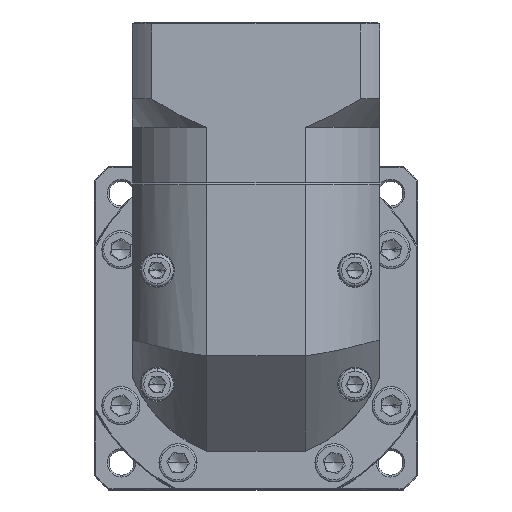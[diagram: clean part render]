
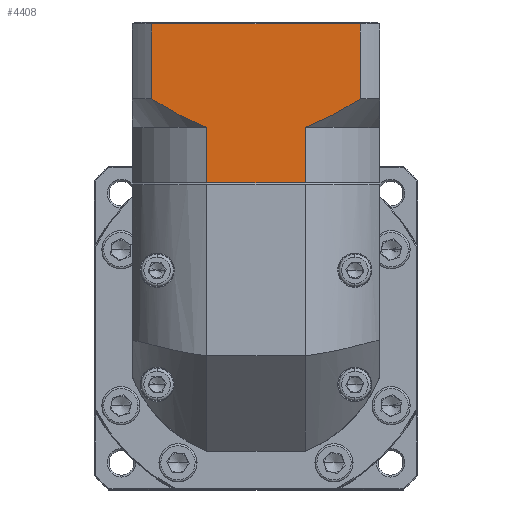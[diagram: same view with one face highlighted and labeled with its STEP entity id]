
A CAD part, top view. The second image highlights one B-rep face of the part: STEP entity #4408.
In plain terms, the highlighted planar face has unit normal (0, 0, 1).
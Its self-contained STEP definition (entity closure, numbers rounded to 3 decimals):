
#1346 = VERTEX_POINT ( 'NONE', #101948 ) ;
#1366 = CARTESIAN_POINT ( 'NONE',  ( -82.245, 79.689, 35.712 ) ) ;
#2432 = LINE ( 'NONE', #1366, #64406 ) ;
#3398 = EDGE_CURVE ( 'NONE', #23586, #63416, #50546, .T. ) ;
#3804 = CARTESIAN_POINT ( 'NONE',  ( -96.641, 87.189, 35.712 ) ) ;
#3807 = PLANE ( 'NONE',  #53668 ) ;
#3931 = CARTESIAN_POINT ( 'NONE',  ( -96.641, 87.189, 35.712 ) ) ;
#4408 = ADVANCED_FACE ( 'NONE', ( #137596 ), #3807, .F. ) ;
#7183 = CARTESIAN_POINT ( 'NONE',  ( -84.783, 80.631, 35.712 ) ) ;
#12282 = ORIENTED_EDGE ( 'NONE', *, *, #95376, .T. ) ;
#13241 = EDGE_CURVE ( 'NONE', #133788, #1346, #27506, .T. ) ;
#14719 = CARTESIAN_POINT ( 'NONE',  ( -94.352, 85.74, 35.712 ) ) ;
#16058 = CARTESIAN_POINT ( 'NONE',  ( -87.235, 81.775, 35.712 ) ) ;
#17383 = B_SPLINE_CURVE_WITH_KNOTS ( 'NONE', 3,
 ( #103817, #124033, #49319, #38560, #103352, #17922, #72369, #59674, #70957, #124948 ),
 .UNSPECIFIED., .F., .F.,
 ( 4, 2, 2, 2, 4 ),
 ( 0.101, 0.103, 0.105, 0.109, 0.117 ),
 .UNSPECIFIED. ) ;
#17782 = ORIENTED_EDGE ( 'NONE', *, *, #13241, .F. ) ;
#17922 = CARTESIAN_POINT ( 'NONE',  ( -51.244, 81.83, 35.712 ) ) ;
#23586 = VERTEX_POINT ( 'NONE', #110019 ) ;
#23606 = EDGE_CURVE ( 'NONE', #44879, #127224, #112468, .T. ) ;
#25762 = DIRECTION ( 'NONE',  ( 0., 0., -1. ) ) ;
#25828 = CARTESIAN_POINT ( 'NONE',  ( -96.641, 79.689, 35.712 ) ) ;
#25976 = DIRECTION ( 'NONE',  ( -1., 0., 0. ) ) ;
#26276 = VECTOR ( 'NONE', #47384, 1000. ) ;
#26424 = EDGE_LOOP ( 'NONE', ( #17782, #12282, #131888, #68027, #104880, #88351, #138520, #67268 ) ) ;
#27506 = LINE ( 'NONE', #136576, #81289 ) ;
#27833 = CARTESIAN_POINT ( 'NONE',  ( -56.264, 65.189, 35.712 ) ) ;
#35022 = DIRECTION ( 'NONE',  ( 0., 1., 0. ) ) ;
#35315 = CARTESIAN_POINT ( 'NONE',  ( -92.016, 84.356, 35.712 ) ) ;
#36796 = CARTESIAN_POINT ( 'NONE',  ( -82.245, 79.689, 35.712 ) ) ;
#38560 = CARTESIAN_POINT ( 'NONE',  ( -53.722, 80.705, 35.712 ) ) ;
#39611 = DIRECTION ( 'NONE',  ( 1., 0., 0. ) ) ;
#42655 = EDGE_CURVE ( 'NONE', #44879, #45055, #59778, .T. ) ;
#44879 = VERTEX_POINT ( 'NONE', #3804 ) ;
#44932 = VERTEX_POINT ( 'NONE', #77025 ) ;
#45055 = VERTEX_POINT ( 'NONE', #90969 ) ;
#46052 = CARTESIAN_POINT ( 'NONE',  ( -90.831, 83.686, 35.712 ) ) ;
#47384 = DIRECTION ( 'NONE',  ( 0., 1., 0. ) ) ;
#49319 = CARTESIAN_POINT ( 'NONE',  ( -54.983, 80.18, 35.712 ) ) ;
#50546 = LINE ( 'NONE', #114335, #132987 ) ;
#53668 = AXIS2_PLACEMENT_3D ( 'NONE', #78874, #25762, #90515 ) ;
#58806 = CARTESIAN_POINT ( 'NONE',  ( -101.755, 106.889, 35.712 ) ) ;
#59674 = CARTESIAN_POINT ( 'NONE',  ( -46.451, 84.34, 35.712 ) ) ;
#59778 = LINE ( 'NONE', #25828, #26276 ) ;
#59968 = DIRECTION ( 'NONE',  ( 0., -1., 0. ) ) ;
#63416 = VERTEX_POINT ( 'NONE', #27833 ) ;
#64406 = VECTOR ( 'NONE', #35022, 1000. ) ;
#67268 = ORIENTED_EDGE ( 'NONE', *, *, #102749, .T. ) ;
#68027 = ORIENTED_EDGE ( 'NONE', *, *, #23606, .T. ) ;
#70731 = LINE ( 'NONE', #79955, #74120 ) ;
#70957 = CARTESIAN_POINT ( 'NONE',  ( -44.137, 85.727, 35.712 ) ) ;
#72369 = CARTESIAN_POINT ( 'NONE',  ( -50.032, 82.435, 35.712 ) ) ;
#74120 = VECTOR ( 'NONE', #90685, 1000. ) ;
#76847 = CARTESIAN_POINT ( 'NONE',  ( -41.869, 106.889, 35.712 ) ) ;
#77025 = CARTESIAN_POINT ( 'NONE',  ( -56.264, 79.689, 35.712 ) ) ;
#78874 = CARTESIAN_POINT ( 'NONE',  ( -101.755, 107.389, 35.712 ) ) ;
#79955 = CARTESIAN_POINT ( 'NONE',  ( -56.264, 79.689, 35.712 ) ) ;
#81289 = VECTOR ( 'NONE', #59968, 1000. ) ;
#84128 = LINE ( 'NONE', #58806, #124388 ) ;
#88351 = ORIENTED_EDGE ( 'NONE', *, *, #3398, .T. ) ;
#90515 = DIRECTION ( 'NONE',  ( 0., 1., 0. ) ) ;
#90685 = DIRECTION ( 'NONE',  ( 0., -1., 0. ) ) ;
#90969 = CARTESIAN_POINT ( 'NONE',  ( -96.641, 106.889, 35.712 ) ) ;
#95376 = EDGE_CURVE ( 'NONE', #133788, #45055, #84128, .T. ) ;
#99645 = CARTESIAN_POINT ( 'NONE',  ( -95.503, 86.455, 35.712 ) ) ;
#99697 = EDGE_CURVE ( 'NONE', #23586, #127224, #2432, .T. ) ;
#101948 = CARTESIAN_POINT ( 'NONE',  ( -41.869, 87.189, 35.712 ) ) ;
#102749 = EDGE_CURVE ( 'NONE', #44932, #1346, #17383, .T. ) ;
#103352 = CARTESIAN_POINT ( 'NONE',  ( -53.098, 80.979, 35.712 ) ) ;
#103817 = CARTESIAN_POINT ( 'NONE',  ( -56.264, 79.689, 35.712 ) ) ;
#104880 = ORIENTED_EDGE ( 'NONE', *, *, #99697, .F. ) ;
#110019 = CARTESIAN_POINT ( 'NONE',  ( -82.245, 65.189, 35.712 ) ) ;
#112468 = B_SPLINE_CURVE_WITH_KNOTS ( 'NONE', 3,
 ( #3931, #99645, #14719, #35315, #46052, #16058, #7183, #135307 ),
 .UNSPECIFIED., .F., .F.,
 ( 4, 2, 2, 4 ),
 ( 0.058, 0.062, 0.066, 0.074 ),
 .UNSPECIFIED. ) ;
#114335 = CARTESIAN_POINT ( 'NONE',  ( -101.755, 65.189, 35.712 ) ) ;
#124033 = CARTESIAN_POINT ( 'NONE',  ( -55.622, 79.927, 35.712 ) ) ;
#124388 = VECTOR ( 'NONE', #25976, 1000. ) ;
#124948 = CARTESIAN_POINT ( 'NONE',  ( -41.869, 87.189, 35.712 ) ) ;
#127224 = VERTEX_POINT ( 'NONE', #36796 ) ;
#131888 = ORIENTED_EDGE ( 'NONE', *, *, #42655, .F. ) ;
#132987 = VECTOR ( 'NONE', #39611, 1000. ) ;
#133788 = VERTEX_POINT ( 'NONE', #76847 ) ;
#135307 = CARTESIAN_POINT ( 'NONE',  ( -82.245, 79.689, 35.712 ) ) ;
#136576 = CARTESIAN_POINT ( 'NONE',  ( -41.869, 79.689, 35.712 ) ) ;
#137596 = FACE_OUTER_BOUND ( 'NONE', #26424, .T. ) ;
#137629 = EDGE_CURVE ( 'NONE', #44932, #63416, #70731, .T. ) ;
#138520 = ORIENTED_EDGE ( 'NONE', *, *, #137629, .F. ) ;
